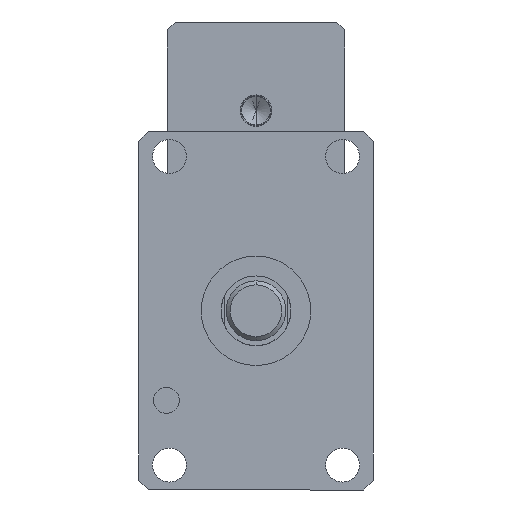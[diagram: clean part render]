
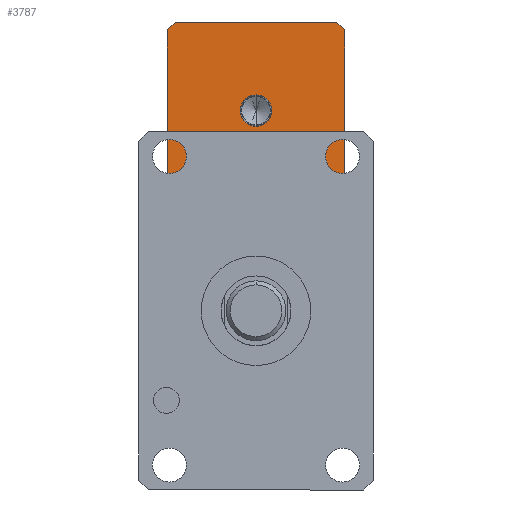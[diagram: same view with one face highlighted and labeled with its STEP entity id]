
A CAD part, front view. The second image highlights one B-rep face of the part: STEP entity #3787.
In plain terms, the highlighted planar face has unit normal (0, -1, 0).
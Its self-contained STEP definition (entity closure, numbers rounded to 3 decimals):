
#720 = CARTESIAN_POINT ( 'NONE',  ( 40.5, 260., 145. ) ) ;
#736 = CARTESIAN_POINT ( 'NONE',  ( -44.5, 260., 141. ) ) ;
#808 = DIRECTION ( 'NONE',  ( 0., -1., 0. ) ) ;
#1040 = ORIENTED_EDGE ( 'NONE', *, *, #5688, .T. ) ;
#1078 = AXIS2_PLACEMENT_3D ( 'NONE', #5870, #12499, #6848 ) ;
#1112 = CARTESIAN_POINT ( 'NONE',  ( 40.5, 260., 56. ) ) ;
#1189 = DIRECTION ( 'NONE',  ( -0.707, 0., -0.707 ) ) ;
#1287 = VERTEX_POINT ( 'NONE', #10758 ) ;
#1479 = ORIENTED_EDGE ( 'NONE', *, *, #4615, .F. ) ;
#1728 = DIRECTION ( 'NONE',  ( -0.707, 0., 0.707 ) ) ;
#1931 = ORIENTED_EDGE ( 'NONE', *, *, #6112, .T. ) ;
#2091 = DIRECTION ( 'NONE',  ( 0.707, 0., -0.707 ) ) ;
#2139 = CARTESIAN_POINT ( 'NONE',  ( 44.5, 260., 60. ) ) ;
#2338 = DIRECTION ( 'NONE',  ( 0., 1., 0. ) ) ;
#2446 = VERTEX_POINT ( 'NONE', #4067 ) ;
#2475 = VECTOR ( 'NONE', #11020, 1000. ) ;
#2563 = CIRCLE ( 'NONE', #1078, 7.903 ) ;
#2597 = FACE_BOUND ( 'NONE', #4224, .T. ) ;
#2795 = VECTOR ( 'NONE', #11883, 1000. ) ;
#3038 = CARTESIAN_POINT ( 'NONE',  ( -44.5, 260., 60. ) ) ;
#3210 = CARTESIAN_POINT ( 'NONE',  ( 44.5, 260., 56. ) ) ;
#3223 = VECTOR ( 'NONE', #1728, 1000. ) ;
#3524 = CARTESIAN_POINT ( 'NONE',  ( -44.5, 260., 145. ) ) ;
#3599 = DIRECTION ( 'NONE',  ( 0., 0., -1. ) ) ;
#3787 = ADVANCED_FACE ( 'NONE', ( #2597, #4908 ), #8201, .F. ) ;
#3993 = LINE ( 'NONE', #4188, #8878 ) ;
#4027 = CARTESIAN_POINT ( 'NONE',  ( 44.5, 260., 145. ) ) ;
#4067 = CARTESIAN_POINT ( 'NONE',  ( 44.5, 260., 141. ) ) ;
#4188 = CARTESIAN_POINT ( 'NONE',  ( -40.5, 260., 145. ) ) ;
#4224 = EDGE_LOOP ( 'NONE', ( #4319, #1479 ) ) ;
#4239 = CARTESIAN_POINT ( 'NONE',  ( 44.5, 260., 60. ) ) ;
#4302 = ORIENTED_EDGE ( 'NONE', *, *, #5400, .T. ) ;
#4319 = ORIENTED_EDGE ( 'NONE', *, *, #5531, .F. ) ;
#4562 = CARTESIAN_POINT ( 'NONE',  ( -44.5, 260., 60. ) ) ;
#4615 = EDGE_CURVE ( 'NONE', #10069, #5072, #2563, .T. ) ;
#4625 = VECTOR ( 'NONE', #6033, 1000. ) ;
#4908 = FACE_OUTER_BOUND ( 'NONE', #10388, .T. ) ;
#4950 = CIRCLE ( 'NONE', #10271, 7.903 ) ;
#5072 = VERTEX_POINT ( 'NONE', #11554 ) ;
#5094 = LINE ( 'NONE', #4239, #2475 ) ;
#5194 = VERTEX_POINT ( 'NONE', #1112 ) ;
#5400 = EDGE_CURVE ( 'NONE', #6756, #8163, #11552, .T. ) ;
#5420 = LINE ( 'NONE', #3210, #2795 ) ;
#5510 = ORIENTED_EDGE ( 'NONE', *, *, #5781, .F. ) ;
#5524 = DIRECTION ( 'NONE',  ( 0., 0., -1. ) ) ;
#5531 = EDGE_CURVE ( 'NONE', #5072, #10069, #4950, .T. ) ;
#5576 = EDGE_CURVE ( 'NONE', #8163, #1287, #8893, .T. ) ;
#5644 = EDGE_CURVE ( 'NONE', #1287, #5194, #5420, .T. ) ;
#5688 = EDGE_CURVE ( 'NONE', #5194, #7058, #5094, .T. ) ;
#5781 = EDGE_CURVE ( 'NONE', #2446, #7058, #9331, .T. ) ;
#5868 = EDGE_CURVE ( 'NONE', #2446, #6762, #5885, .T. ) ;
#5870 = CARTESIAN_POINT ( 'NONE',  ( 0., 260., 100.5 ) ) ;
#5885 = LINE ( 'NONE', #720, #3223 ) ;
#6026 = EDGE_CURVE ( 'NONE', #11417, #6762, #7254, .T. ) ;
#6033 = DIRECTION ( 'NONE',  ( 1., 0., 0. ) ) ;
#6112 = EDGE_CURVE ( 'NONE', #11417, #6756, #3993, .T. ) ;
#6422 = ORIENTED_EDGE ( 'NONE', *, *, #6026, .F. ) ;
#6522 = VECTOR ( 'NONE', #5524, 1000. ) ;
#6756 = VERTEX_POINT ( 'NONE', #736 ) ;
#6762 = VERTEX_POINT ( 'NONE', #7662 ) ;
#6771 = CARTESIAN_POINT ( 'NONE',  ( 0., 260., 100.5 ) ) ;
#6805 = VECTOR ( 'NONE', #3599, 1000. ) ;
#6848 = DIRECTION ( 'NONE',  ( 0., 0., -1. ) ) ;
#6956 = CARTESIAN_POINT ( 'NONE',  ( 0., 260., 108.403 ) ) ;
#7058 = VERTEX_POINT ( 'NONE', #2139 ) ;
#7228 = ORIENTED_EDGE ( 'NONE', *, *, #5868, .T. ) ;
#7254 = LINE ( 'NONE', #4027, #4625 ) ;
#7408 = AXIS2_PLACEMENT_3D ( 'NONE', #9102, #2338, #9149 ) ;
#7662 = CARTESIAN_POINT ( 'NONE',  ( 40.5, 260., 145. ) ) ;
#7753 = DIRECTION ( 'NONE',  ( 0., 0., -1. ) ) ;
#8163 = VERTEX_POINT ( 'NONE', #4562 ) ;
#8201 = PLANE ( 'NONE',  #7408 ) ;
#8454 = ORIENTED_EDGE ( 'NONE', *, *, #5644, .T. ) ;
#8878 = VECTOR ( 'NONE', #1189, 1000. ) ;
#8893 = LINE ( 'NONE', #3038, #11405 ) ;
#9102 = CARTESIAN_POINT ( 'NONE',  ( 44.5, 260., 145. ) ) ;
#9149 = DIRECTION ( 'NONE',  ( 0., 0., 1. ) ) ;
#9331 = LINE ( 'NONE', #9425, #6805 ) ;
#9425 = CARTESIAN_POINT ( 'NONE',  ( 44.5, 260., 145. ) ) ;
#10069 = VERTEX_POINT ( 'NONE', #6956 ) ;
#10271 = AXIS2_PLACEMENT_3D ( 'NONE', #6771, #808, #7753 ) ;
#10388 = EDGE_LOOP ( 'NONE', ( #4302, #10518, #8454, #1040, #5510, #7228, #6422, #1931 ) ) ;
#10518 = ORIENTED_EDGE ( 'NONE', *, *, #5576, .T. ) ;
#10585 = CARTESIAN_POINT ( 'NONE',  ( -40.5, 260., 145. ) ) ;
#10758 = CARTESIAN_POINT ( 'NONE',  ( -40.5, 260., 56. ) ) ;
#11020 = DIRECTION ( 'NONE',  ( 0.707, 0., 0.707 ) ) ;
#11405 = VECTOR ( 'NONE', #2091, 1000. ) ;
#11417 = VERTEX_POINT ( 'NONE', #10585 ) ;
#11552 = LINE ( 'NONE', #3524, #6522 ) ;
#11554 = CARTESIAN_POINT ( 'NONE',  ( 0., 260., 92.597 ) ) ;
#11883 = DIRECTION ( 'NONE',  ( 1., 0., 0. ) ) ;
#12499 = DIRECTION ( 'NONE',  ( 0., -1., 0. ) ) ;
